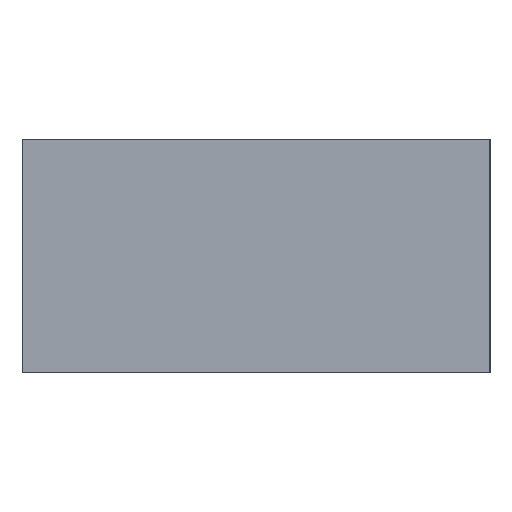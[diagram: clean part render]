
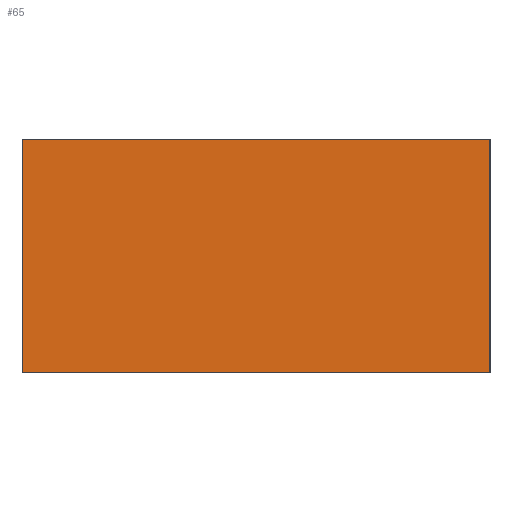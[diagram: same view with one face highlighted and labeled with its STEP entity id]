
A CAD part, left-side view. The second image highlights one B-rep face of the part: STEP entity #65.
In plain terms, the highlighted planar face has unit normal (-1, 0, 0).
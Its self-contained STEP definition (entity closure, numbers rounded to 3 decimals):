
#35 = VECTOR ( 'NONE', #604, 1000. ) ;
#52 = VERTEX_POINT ( 'NONE', #546 ) ;
#65 = ADVANCED_FACE ( 'NONE', ( #626 ), #757, .F. ) ;
#79 = EDGE_CURVE ( 'NONE', #110, #668, #489, .T. ) ;
#93 = LINE ( 'NONE', #100, #35 ) ;
#100 = CARTESIAN_POINT ( 'NONE',  ( 0., 0., 5.5 ) ) ;
#110 = VERTEX_POINT ( 'NONE', #616 ) ;
#115 = LINE ( 'NONE', #619, #286 ) ;
#240 = VERTEX_POINT ( 'NONE', #915 ) ;
#253 = CARTESIAN_POINT ( 'NONE',  ( 0., 22., 5.5 ) ) ;
#286 = VECTOR ( 'NONE', #402, 1000. ) ;
#315 = CARTESIAN_POINT ( 'NONE',  ( 0., 0., 11. ) ) ;
#317 = LINE ( 'NONE', #918, #473 ) ;
#390 = CARTESIAN_POINT ( 'NONE',  ( 0., 22., 0. ) ) ;
#402 = DIRECTION ( 'NONE',  ( 0., 1., 0. ) ) ;
#473 = VECTOR ( 'NONE', #640, 1000. ) ;
#478 = ORIENTED_EDGE ( 'NONE', *, *, #785, .F. ) ;
#489 = LINE ( 'NONE', #253, #722 ) ;
#537 = DIRECTION ( 'NONE',  ( 0., 0., -1. ) ) ;
#546 = CARTESIAN_POINT ( 'NONE',  ( 0., 0., 11. ) ) ;
#555 = ORIENTED_EDGE ( 'NONE', *, *, #79, .T. ) ;
#586 = EDGE_LOOP ( 'NONE', ( #685, #758, #555, #478 ) ) ;
#604 = DIRECTION ( 'NONE',  ( 0., 0., 1. ) ) ;
#616 = CARTESIAN_POINT ( 'NONE',  ( 0., 22., 11. ) ) ;
#619 = CARTESIAN_POINT ( 'NONE',  ( 0., 11., 0. ) ) ;
#626 = FACE_OUTER_BOUND ( 'NONE', #586, .T. ) ;
#640 = DIRECTION ( 'NONE',  ( 0., 1., 0. ) ) ;
#649 = EDGE_CURVE ( 'NONE', #240, #52, #93, .T. ) ;
#668 = VERTEX_POINT ( 'NONE', #390 ) ;
#685 = ORIENTED_EDGE ( 'NONE', *, *, #649, .T. ) ;
#691 = DIRECTION ( 'NONE',  ( 0., 0., -1. ) ) ;
#722 = VECTOR ( 'NONE', #691, 1000. ) ;
#757 = PLANE ( 'NONE',  #794 ) ;
#758 = ORIENTED_EDGE ( 'NONE', *, *, #832, .T. ) ;
#785 = EDGE_CURVE ( 'NONE', #240, #668, #115, .T. ) ;
#794 = AXIS2_PLACEMENT_3D ( 'NONE', #315, #903, #537 ) ;
#832 = EDGE_CURVE ( 'NONE', #52, #110, #317, .T. ) ;
#903 = DIRECTION ( 'NONE',  ( 1., 0., 0. ) ) ;
#915 = CARTESIAN_POINT ( 'NONE',  ( 0., 0., 0. ) ) ;
#918 = CARTESIAN_POINT ( 'NONE',  ( 0., 11., 11. ) ) ;
